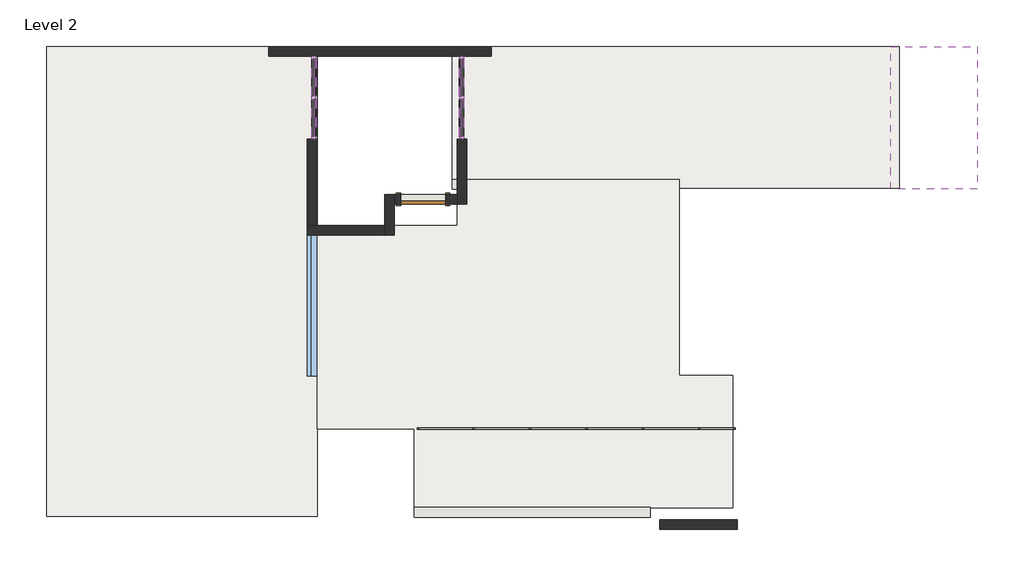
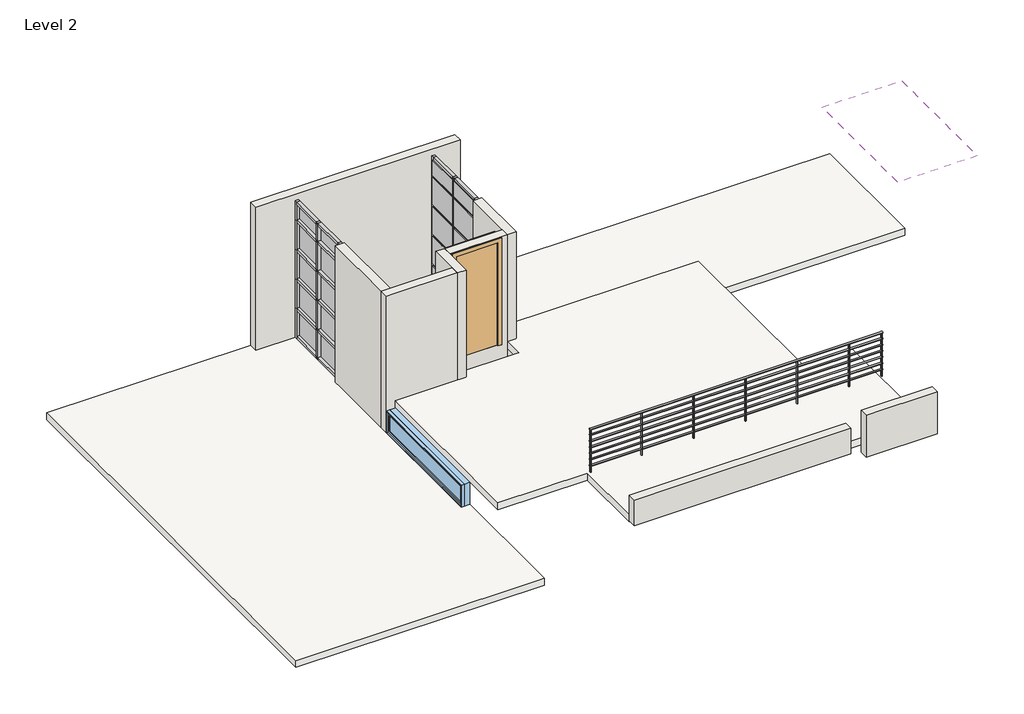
# One storey: 54 members, 20 plates, 9 walls, 3 slabs, 1 door, 1 railing, 1 roof, 1 window.
"""IFC4 building model written with IfcOpenShell, lengths in millimetres."""

from ifc_helpers import new_model, si_unit, point, frame, frame_2d, origin, place, context, project, spatial, polyline, circle_curve, trimmed, segment, composite_curve, outline, extrude, faceted_brep, transform, mapped, element, save
from components import m_single_flush_800_439f2f28, rectangular_mullion_50mm_x_65mm_a82a1849, rectangular_mullion_50mm_x_65mm_ff5aef03, rectangular_mullion_50mm_x_65mm_af7e1818, rectangular_mullion_50mm_x_65mm_bf212f9d, rectangular_mullion_50mm_x_65mm_06ddfb15, rectangular_mullion_50mm_x_65mm_7c7c1d20, rectangular_mullion_50mm_x_65mm_bbd437ae, rectangular_mullion_50mm_x_65mm_29f2aee9, system_panel_glazed_72305a2b, system_panel_glazed_4d50a23d, system_panel_glazed_a9119209, system_panel_glazed_487f0127, m_fixed_2bd9e5b5

model = new_model("IFC4")

# Units and contexts
model_context = context("Model", 3, world=origin())
ifc_project = project(units=[si_unit("LENGTHUNIT", "METRE", prefix="MILLI")], contexts=[model_context])

# Site, building, storey
site = spatial("IfcSite", under=ifc_project)
building = spatial("IfcBuilding", under=site)
storey = spatial("IfcBuildingStorey", under=building, Name="Level 2", Elevation=2700.0)

# Door
placement = place(None, origin())
m_single_flush_800_shape = m_single_flush_800_439f2f28(model_context)
element("IfcDoor", 1, ObjectType="M_Single-Flush : 800", at=placement, inside=storey, context=model_context, shape_type="MappedRepresentation", body=[
    mapped(m_single_flush_800_shape, transform((-220.1157199, 359.0181239, 3300.0), x_axis=(-1.0, 0.0, 0.0), y_axis=(0.0, -1.0, 0.0), z_axis=(0.0, 0.0, 1.0))),
])

# Members
rectangular_mullion_50mm_x_65mm_shape = rectangular_mullion_50mm_x_65mm_a82a1849(model_context)
element("IfcMember", 2, ObjectType="Rectangular Mullion : 50mm x 65mm", at=placement, inside=storey, context=model_context, shape_type="MappedRepresentation", body=[
    mapped(rectangular_mullion_50mm_x_65mm_shape, transform((469.8842801, 2161.5181239, 2700.0), x_axis=(0.0, -1.0, 0.0), y_axis=(-1.0, 0.0, 0.0), z_axis=(0.0, 0.0, -1.0))),
])
element("IfcMember", 3, ObjectType="Rectangular Mullion : 50mm x 65mm", at=placement, inside=storey, context=model_context, shape_type="MappedRepresentation", body=[
    mapped(rectangular_mullion_50mm_x_65mm_shape, transform((-2165.1157199, 2161.5181239, 2700.0), x_axis=(0.0, 1.0, 0.0), y_axis=(1.0, 0.0, 0.0), z_axis=(0.0, 0.0, -1.0))),
])
element("IfcMember", 4, ObjectType="Rectangular Mullion : 50mm x 65mm", at=placement, inside=storey, context=model_context, shape_type="MappedRepresentation", body=[
    mapped(rectangular_mullion_50mm_x_65mm_shape, transform((469.8842801, 2161.5181239, 3300.0), x_axis=(0.0, -1.0, 0.0), y_axis=(-1.0, 0.0, 0.0), z_axis=(0.0, 0.0, -1.0))),
])
element("IfcMember", 5, ObjectType="Rectangular Mullion : 50mm x 65mm", at=placement, inside=storey, context=model_context, shape_type="MappedRepresentation", body=[
    mapped(rectangular_mullion_50mm_x_65mm_shape, transform((-2165.1157199, 2161.5181239, 3300.0), x_axis=(0.0, 1.0, 0.0), y_axis=(1.0, 0.0, 0.0), z_axis=(0.0, 0.0, -1.0))),
])
element("IfcMember", 6, ObjectType="Rectangular Mullion : 50mm x 65mm", at=placement, inside=storey, context=model_context, shape_type="MappedRepresentation", body=[
    mapped(rectangular_mullion_50mm_x_65mm_shape, transform((-2165.1157199, 2161.5181239, 3900.0), x_axis=(0.0, 1.0, 0.0), y_axis=(1.0, 0.0, 0.0), z_axis=(0.0, 0.0, -1.0))),
])
element("IfcMember", 7, ObjectType="Rectangular Mullion : 50mm x 65mm", at=placement, inside=storey, context=model_context, shape_type="MappedRepresentation", body=[
    mapped(rectangular_mullion_50mm_x_65mm_shape, transform((-2165.1157199, 2161.5181239, 4500.0), x_axis=(0.0, 1.0, 0.0), y_axis=(1.0, 0.0, 0.0), z_axis=(0.0, 0.0, -1.0))),
])
element("IfcMember", 8, ObjectType="Rectangular Mullion : 50mm x 65mm", at=placement, inside=storey, context=model_context, shape_type="MappedRepresentation", body=[
    mapped(rectangular_mullion_50mm_x_65mm_shape, transform((469.8842801, 2161.5181239, 3900.0), x_axis=(0.0, -1.0, 0.0), y_axis=(-1.0, 0.0, 0.0), z_axis=(0.0, 0.0, -1.0))),
])
element("IfcMember", 9, ObjectType="Rectangular Mullion : 50mm x 65mm", at=placement, inside=storey, context=model_context, shape_type="MappedRepresentation", body=[
    mapped(rectangular_mullion_50mm_x_65mm_shape, transform((469.8842801, 2161.5181239, 4500.0), x_axis=(0.0, -1.0, 0.0), y_axis=(-1.0, 0.0, 0.0), z_axis=(0.0, 0.0, -1.0))),
])
rectangular_mullion_50mm_x_65mm_2_shape = rectangular_mullion_50mm_x_65mm_ff5aef03(model_context)
element("IfcMember", 10, ObjectType="Rectangular Mullion : 50mm x 65mm", at=placement, inside=storey, context=model_context, shape_type="MappedRepresentation", body=[
    mapped(rectangular_mullion_50mm_x_65mm_2_shape, transform((469.8842801, 1424.0181239, 2700.0), x_axis=(0.0, -1.0, 0.0), y_axis=(-1.0, 0.0, 0.0), z_axis=(0.0, 0.0, -1.0))),
])
element("IfcMember", 11, ObjectType="Rectangular Mullion : 50mm x 65mm", at=placement, inside=storey, context=model_context, shape_type="MappedRepresentation", body=[
    mapped(rectangular_mullion_50mm_x_65mm_2_shape, transform((-2165.1157199, 2899.0181239, 2700.0), x_axis=(0.0, 1.0, 0.0), y_axis=(1.0, 0.0, 0.0), z_axis=(0.0, 0.0, -1.0))),
])
element("IfcMember", 12, ObjectType="Rectangular Mullion : 50mm x 65mm", at=placement, inside=storey, context=model_context, shape_type="MappedRepresentation", body=[
    mapped(rectangular_mullion_50mm_x_65mm_2_shape, transform((469.8842801, 1424.0181239, 3300.0), x_axis=(0.0, -1.0, 0.0), y_axis=(-1.0, 0.0, 0.0), z_axis=(0.0, 0.0, -1.0))),
])
element("IfcMember", 13, ObjectType="Rectangular Mullion : 50mm x 65mm", at=placement, inside=storey, context=model_context, shape_type="MappedRepresentation", body=[
    mapped(rectangular_mullion_50mm_x_65mm_2_shape, transform((-2165.1157199, 2899.0181239, 3300.0), x_axis=(0.0, 1.0, 0.0), y_axis=(1.0, 0.0, 0.0), z_axis=(0.0, 0.0, -1.0))),
])
element("IfcMember", 14, ObjectType="Rectangular Mullion : 50mm x 65mm", at=placement, inside=storey, context=model_context, shape_type="MappedRepresentation", body=[
    mapped(rectangular_mullion_50mm_x_65mm_2_shape, transform((-2165.1157199, 2899.0181239, 3900.0), x_axis=(0.0, 1.0, 0.0), y_axis=(1.0, 0.0, 0.0), z_axis=(0.0, 0.0, -1.0))),
])
element("IfcMember", 15, ObjectType="Rectangular Mullion : 50mm x 65mm", at=placement, inside=storey, context=model_context, shape_type="MappedRepresentation", body=[
    mapped(rectangular_mullion_50mm_x_65mm_2_shape, transform((-2165.1157199, 2899.0181239, 4500.0), x_axis=(0.0, 1.0, 0.0), y_axis=(1.0, 0.0, 0.0), z_axis=(0.0, 0.0, -1.0))),
])
element("IfcMember", 16, ObjectType="Rectangular Mullion : 50mm x 65mm", at=placement, inside=storey, context=model_context, shape_type="MappedRepresentation", body=[
    mapped(rectangular_mullion_50mm_x_65mm_2_shape, transform((469.8842801, 1424.0181239, 3900.0), x_axis=(0.0, -1.0, 0.0), y_axis=(-1.0, 0.0, 0.0), z_axis=(0.0, 0.0, -1.0))),
])
element("IfcMember", 17, ObjectType="Rectangular Mullion : 50mm x 65mm", at=placement, inside=storey, context=model_context, shape_type="MappedRepresentation", body=[
    mapped(rectangular_mullion_50mm_x_65mm_2_shape, transform((469.8842801, 1424.0181239, 4500.0), x_axis=(0.0, -1.0, 0.0), y_axis=(-1.0, 0.0, 0.0), z_axis=(0.0, 0.0, -1.0))),
])
element("IfcMember", 18, ObjectType="Rectangular Mullion : 50mm x 65mm", at=placement, inside=storey, context=model_context, shape_type="MappedRepresentation", body=[
    mapped(rectangular_mullion_50mm_x_65mm_2_shape, transform((469.8842801, 2899.0181239, 3300.0), x_axis=(0.0, 1.0, 0.0), y_axis=(-1.0, 0.0, 0.0), z_axis=(0.0, 0.0, 1.0))),
])
element("IfcMember", 19, ObjectType="Rectangular Mullion : 50mm x 65mm", at=placement, inside=storey, context=model_context, shape_type="MappedRepresentation", body=[
    mapped(rectangular_mullion_50mm_x_65mm_2_shape, transform((-2165.1157199, 1424.0181239, 3300.0), x_axis=(0.0, -1.0, 0.0), y_axis=(1.0, 0.0, 0.0), z_axis=(0.0, 0.0, 1.0))),
])
element("IfcMember", 20, ObjectType="Rectangular Mullion : 50mm x 65mm", at=placement, inside=storey, context=model_context, shape_type="MappedRepresentation", body=[
    mapped(rectangular_mullion_50mm_x_65mm_2_shape, transform((-2165.1157199, 1424.0181239, 3900.0), x_axis=(0.0, -1.0, 0.0), y_axis=(1.0, 0.0, 0.0), z_axis=(0.0, 0.0, 1.0))),
])
element("IfcMember", 21, ObjectType="Rectangular Mullion : 50mm x 65mm", at=placement, inside=storey, context=model_context, shape_type="MappedRepresentation", body=[
    mapped(rectangular_mullion_50mm_x_65mm_2_shape, transform((-2165.1157199, 1424.0181239, 4500.0), x_axis=(0.0, -1.0, 0.0), y_axis=(1.0, 0.0, 0.0), z_axis=(0.0, 0.0, 1.0))),
])
element("IfcMember", 22, ObjectType="Rectangular Mullion : 50mm x 65mm", at=placement, inside=storey, context=model_context, shape_type="MappedRepresentation", body=[
    mapped(rectangular_mullion_50mm_x_65mm_2_shape, transform((469.8842801, 2899.0181239, 3900.0), x_axis=(0.0, 1.0, 0.0), y_axis=(-1.0, 0.0, 0.0), z_axis=(0.0, 0.0, 1.0))),
])
element("IfcMember", 23, ObjectType="Rectangular Mullion : 50mm x 65mm", at=placement, inside=storey, context=model_context, shape_type="MappedRepresentation", body=[
    mapped(rectangular_mullion_50mm_x_65mm_2_shape, transform((469.8842801, 2899.0181239, 4500.0), x_axis=(0.0, 1.0, 0.0), y_axis=(-1.0, 0.0, 0.0), z_axis=(0.0, 0.0, 1.0))),
])
element("IfcMember", 24, ObjectType="Rectangular Mullion : 50mm x 65mm", at=placement, inside=storey, context=model_context, shape_type="MappedRepresentation", body=[
    mapped(rectangular_mullion_50mm_x_65mm_2_shape, transform((469.8842801, 2899.0181239, 5100.0), x_axis=(0.0, 1.0, 0.0), y_axis=(-1.0, 0.0, 0.0), z_axis=(0.0, 0.0, 1.0))),
])
element("IfcMember", 25, ObjectType="Rectangular Mullion : 50mm x 65mm", at=placement, inside=storey, context=model_context, shape_type="MappedRepresentation", body=[
    mapped(rectangular_mullion_50mm_x_65mm_2_shape, transform((-2165.1157199, 1424.0181239, 5100.0), x_axis=(0.0, -1.0, 0.0), y_axis=(1.0, 0.0, 0.0), z_axis=(0.0, 0.0, 1.0))),
])
rectangular_mullion_50mm_x_65mm_3_shape = rectangular_mullion_50mm_x_65mm_af7e1818(model_context)
element("IfcMember", 26, ObjectType="Rectangular Mullion : 50mm x 65mm", at=placement, inside=storey, context=model_context, shape_type="MappedRepresentation", body=[
    mapped(rectangular_mullion_50mm_x_65mm_3_shape, transform((469.8842801, 2849.0181239, 2700.0), x_axis=(0.0, 0.0, -1.0), y_axis=(-1.0, 0.0, 0.0), z_axis=(0.0, 1.0, 0.0))),
])
element("IfcMember", 27, ObjectType="Rectangular Mullion : 50mm x 65mm", at=placement, inside=storey, context=model_context, shape_type="MappedRepresentation", body=[
    mapped(rectangular_mullion_50mm_x_65mm_3_shape, transform((469.8842801, 2136.5181239, 2700.0), x_axis=(0.0, 0.0, -1.0), y_axis=(-1.0, 0.0, 0.0), z_axis=(0.0, 1.0, 0.0))),
])
element("IfcMember", 28, ObjectType="Rectangular Mullion : 50mm x 65mm", at=placement, inside=storey, context=model_context, shape_type="MappedRepresentation", body=[
    mapped(rectangular_mullion_50mm_x_65mm_3_shape, transform((-2165.1157199, 1474.0181239, 2700.0), x_axis=(0.0, 0.0, -1.0), y_axis=(1.0, 0.0, 0.0), z_axis=(0.0, -1.0, 0.0))),
])
element("IfcMember", 29, ObjectType="Rectangular Mullion : 50mm x 65mm", at=placement, inside=storey, context=model_context, shape_type="MappedRepresentation", body=[
    mapped(rectangular_mullion_50mm_x_65mm_3_shape, transform((-2165.1157199, 2186.5181239, 2700.0), x_axis=(0.0, 0.0, -1.0), y_axis=(1.0, 0.0, 0.0), z_axis=(0.0, -1.0, 0.0))),
])
rectangular_mullion_50mm_x_65mm_4_shape = rectangular_mullion_50mm_x_65mm_bf212f9d(model_context)
element("IfcMember", 30, ObjectType="Rectangular Mullion : 50mm x 65mm", at=placement, inside=storey, context=model_context, shape_type="MappedRepresentation", body=[
    mapped(rectangular_mullion_50mm_x_65mm_4_shape, transform((469.8842801, 1474.0181239, 3300.0), x_axis=(0.0, 0.0, 1.0), y_axis=(-1.0, 0.0, 0.0), z_axis=(0.0, -1.0, 0.0))),
])
element("IfcMember", 31, ObjectType="Rectangular Mullion : 50mm x 65mm", at=placement, inside=storey, context=model_context, shape_type="MappedRepresentation", body=[
    mapped(rectangular_mullion_50mm_x_65mm_4_shape, transform((-2165.1157199, 2849.0181239, 3300.0), x_axis=(0.0, 0.0, 1.0), y_axis=(1.0, 0.0, 0.0), z_axis=(0.0, 1.0, 0.0))),
])
element("IfcMember", 32, ObjectType="Rectangular Mullion : 50mm x 65mm", at=placement, inside=storey, context=model_context, shape_type="MappedRepresentation", body=[
    mapped(rectangular_mullion_50mm_x_65mm_4_shape, transform((-2165.1157199, 2849.0181239, 3900.0), x_axis=(0.0, 0.0, 1.0), y_axis=(1.0, 0.0, 0.0), z_axis=(0.0, 1.0, 0.0))),
])
element("IfcMember", 33, ObjectType="Rectangular Mullion : 50mm x 65mm", at=placement, inside=storey, context=model_context, shape_type="MappedRepresentation", body=[
    mapped(rectangular_mullion_50mm_x_65mm_4_shape, transform((-2165.1157199, 2849.0181239, 4500.0), x_axis=(0.0, 0.0, 1.0), y_axis=(1.0, 0.0, 0.0), z_axis=(0.0, 1.0, 0.0))),
])
element("IfcMember", 34, ObjectType="Rectangular Mullion : 50mm x 65mm", at=placement, inside=storey, context=model_context, shape_type="MappedRepresentation", body=[
    mapped(rectangular_mullion_50mm_x_65mm_4_shape, transform((469.8842801, 1474.0181239, 3900.0), x_axis=(0.0, 0.0, 1.0), y_axis=(-1.0, 0.0, 0.0), z_axis=(0.0, -1.0, 0.0))),
])
element("IfcMember", 35, ObjectType="Rectangular Mullion : 50mm x 65mm", at=placement, inside=storey, context=model_context, shape_type="MappedRepresentation", body=[
    mapped(rectangular_mullion_50mm_x_65mm_4_shape, transform((469.8842801, 1474.0181239, 4500.0), x_axis=(0.0, 0.0, 1.0), y_axis=(-1.0, 0.0, 0.0), z_axis=(0.0, -1.0, 0.0))),
])
element("IfcMember", 36, ObjectType="Rectangular Mullion : 50mm x 65mm", at=placement, inside=storey, context=model_context, shape_type="MappedRepresentation", body=[
    mapped(rectangular_mullion_50mm_x_65mm_4_shape, transform((469.8842801, 2186.5181239, 3300.0), x_axis=(0.0, 0.0, 1.0), y_axis=(-1.0, 0.0, 0.0), z_axis=(0.0, -1.0, 0.0))),
])
element("IfcMember", 37, ObjectType="Rectangular Mullion : 50mm x 65mm", at=placement, inside=storey, context=model_context, shape_type="MappedRepresentation", body=[
    mapped(rectangular_mullion_50mm_x_65mm_4_shape, transform((469.8842801, 2186.5181239, 3900.0), x_axis=(0.0, 0.0, 1.0), y_axis=(-1.0, 0.0, 0.0), z_axis=(0.0, -1.0, 0.0))),
])
element("IfcMember", 38, ObjectType="Rectangular Mullion : 50mm x 65mm", at=placement, inside=storey, context=model_context, shape_type="MappedRepresentation", body=[
    mapped(rectangular_mullion_50mm_x_65mm_4_shape, transform((469.8842801, 2186.5181239, 4500.0), x_axis=(0.0, 0.0, 1.0), y_axis=(-1.0, 0.0, 0.0), z_axis=(0.0, -1.0, 0.0))),
])
element("IfcMember", 39, ObjectType="Rectangular Mullion : 50mm x 65mm", at=placement, inside=storey, context=model_context, shape_type="MappedRepresentation", body=[
    mapped(rectangular_mullion_50mm_x_65mm_4_shape, transform((-2165.1157199, 2136.5181239, 3300.0), x_axis=(0.0, 0.0, 1.0), y_axis=(1.0, 0.0, 0.0), z_axis=(0.0, 1.0, 0.0))),
])
element("IfcMember", 40, ObjectType="Rectangular Mullion : 50mm x 65mm", at=placement, inside=storey, context=model_context, shape_type="MappedRepresentation", body=[
    mapped(rectangular_mullion_50mm_x_65mm_4_shape, transform((-2165.1157199, 2136.5181239, 3900.0), x_axis=(0.0, 0.0, 1.0), y_axis=(1.0, 0.0, 0.0), z_axis=(0.0, 1.0, 0.0))),
])
element("IfcMember", 41, ObjectType="Rectangular Mullion : 50mm x 65mm", at=placement, inside=storey, context=model_context, shape_type="MappedRepresentation", body=[
    mapped(rectangular_mullion_50mm_x_65mm_4_shape, transform((-2165.1157199, 2136.5181239, 4500.0), x_axis=(0.0, 0.0, 1.0), y_axis=(1.0, 0.0, 0.0), z_axis=(0.0, 1.0, 0.0))),
])
element("IfcMember", 42, ObjectType="Rectangular Mullion : 50mm x 65mm", at=placement, inside=storey, context=model_context, shape_type="MappedRepresentation", body=[
    mapped(rectangular_mullion_50mm_x_65mm_4_shape, transform((469.8842801, 2186.5181239, 5100.0), x_axis=(0.0, 0.0, 1.0), y_axis=(-1.0, 0.0, 0.0), z_axis=(0.0, -1.0, 0.0))),
])
element("IfcMember", 43, ObjectType="Rectangular Mullion : 50mm x 65mm", at=placement, inside=storey, context=model_context, shape_type="MappedRepresentation", body=[
    mapped(rectangular_mullion_50mm_x_65mm_4_shape, transform((469.8842801, 1474.0181239, 5100.0), x_axis=(0.0, 0.0, 1.0), y_axis=(-1.0, 0.0, 0.0), z_axis=(0.0, -1.0, 0.0))),
])
element("IfcMember", 44, ObjectType="Rectangular Mullion : 50mm x 65mm", at=placement, inside=storey, context=model_context, shape_type="MappedRepresentation", body=[
    mapped(rectangular_mullion_50mm_x_65mm_4_shape, transform((-2165.1157199, 2136.5181239, 5100.0), x_axis=(0.0, 0.0, 1.0), y_axis=(1.0, 0.0, 0.0), z_axis=(0.0, 1.0, 0.0))),
])
element("IfcMember", 45, ObjectType="Rectangular Mullion : 50mm x 65mm", at=placement, inside=storey, context=model_context, shape_type="MappedRepresentation", body=[
    mapped(rectangular_mullion_50mm_x_65mm_4_shape, transform((-2165.1157199, 2849.0181239, 5100.0), x_axis=(0.0, 0.0, 1.0), y_axis=(1.0, 0.0, 0.0), z_axis=(0.0, 1.0, 0.0))),
])
element("IfcMember", 46, ObjectType="Rectangular Mullion : 50mm x 65mm", at=placement, inside=storey, context=model_context, shape_type="MappedRepresentation", body=[
    mapped(rectangular_mullion_50mm_x_65mm_3_shape, transform((469.8842801, 1474.0181239, 5480.8658889), x_axis=(0.0, 0.0, 1.0), y_axis=(-1.0, 0.0, 0.0), z_axis=(0.0, -1.0, 0.0))),
])
element("IfcMember", 47, ObjectType="Rectangular Mullion : 50mm x 65mm", at=placement, inside=storey, context=model_context, shape_type="MappedRepresentation", body=[
    mapped(rectangular_mullion_50mm_x_65mm_3_shape, transform((469.8842801, 2186.5181239, 5480.8658889), x_axis=(0.0, 0.0, 1.0), y_axis=(-1.0, 0.0, 0.0), z_axis=(0.0, -1.0, 0.0))),
])
element("IfcMember", 48, ObjectType="Rectangular Mullion : 50mm x 65mm", at=placement, inside=storey, context=model_context, shape_type="MappedRepresentation", body=[
    mapped(rectangular_mullion_50mm_x_65mm_3_shape, transform((-2165.1157199, 2849.0181239, 5489.6492222), x_axis=(0.0, 0.0, 1.0), y_axis=(1.0, 0.0, 0.0), z_axis=(0.0, 1.0, 0.0))),
])
element("IfcMember", 49, ObjectType="Rectangular Mullion : 50mm x 65mm", at=placement, inside=storey, context=model_context, shape_type="MappedRepresentation", body=[
    mapped(rectangular_mullion_50mm_x_65mm_3_shape, transform((-2165.1157199, 2136.5181239, 5489.6492222), x_axis=(0.0, 0.0, 1.0), y_axis=(1.0, 0.0, 0.0), z_axis=(0.0, 1.0, 0.0))),
])
rectangular_mullion_50mm_x_65mm_5_shape = rectangular_mullion_50mm_x_65mm_06ddfb15(model_context)
element("IfcMember", 50, ObjectType="Rectangular Mullion : 50mm x 65mm", at=placement, inside=storey, context=model_context, shape_type="MappedRepresentation", body=[
    mapped(rectangular_mullion_50mm_x_65mm_5_shape, transform((469.8842801, 2161.5181239, 5100.0), x_axis=(0.0, -1.0, 0.0), y_axis=(-1.0, 0.0, 0.0), z_axis=(0.0, 0.0, -1.0))),
])
rectangular_mullion_50mm_x_65mm_6_shape = rectangular_mullion_50mm_x_65mm_7c7c1d20(model_context)
element("IfcMember", 51, ObjectType="Rectangular Mullion : 50mm x 65mm", at=placement, inside=storey, context=model_context, shape_type="MappedRepresentation", body=[
    mapped(rectangular_mullion_50mm_x_65mm_6_shape, transform((-2165.1157199, 2161.5181239, 5100.0), x_axis=(0.0, 1.0, 0.0), y_axis=(1.0, 0.0, 0.0), z_axis=(0.0, 0.0, -1.0))),
])
rectangular_mullion_50mm_x_65mm_7_shape = rectangular_mullion_50mm_x_65mm_bbd437ae(model_context)
element("IfcMember", 52, ObjectType="Rectangular Mullion : 50mm x 65mm", at=placement, inside=storey, context=model_context, shape_type="MappedRepresentation", body=[
    mapped(rectangular_mullion_50mm_x_65mm_7_shape, transform((469.8842801, 2899.0181239, 5480.8658889), x_axis=(0.0, 1.0, 0.0), y_axis=(-1.0, 0.0, 0.0), z_axis=(0.0, 0.0, 1.0))),
])
element("IfcMember", 53, ObjectType="Rectangular Mullion : 50mm x 65mm", at=placement, inside=storey, context=model_context, shape_type="MappedRepresentation", body=[
    mapped(rectangular_mullion_50mm_x_65mm_7_shape, transform((469.8842801, 1424.0181239, 5100.0), x_axis=(0.0, -1.0, 0.0), y_axis=(-1.0, 0.0, 0.0), z_axis=(0.0, 0.0, -1.0))),
])
rectangular_mullion_50mm_x_65mm_8_shape = rectangular_mullion_50mm_x_65mm_29f2aee9(model_context)
element("IfcMember", 54, ObjectType="Rectangular Mullion : 50mm x 65mm", at=placement, inside=storey, context=model_context, shape_type="MappedRepresentation", body=[
    mapped(rectangular_mullion_50mm_x_65mm_8_shape, transform((-2165.1157199, 2899.0181239, 5100.0), x_axis=(0.0, 1.0, 0.0), y_axis=(1.0, 0.0, 0.0), z_axis=(0.0, 0.0, -1.0))),
])
element("IfcMember", 55, ObjectType="Rectangular Mullion : 50mm x 65mm", at=placement, inside=storey, context=model_context, shape_type="MappedRepresentation", body=[
    mapped(rectangular_mullion_50mm_x_65mm_8_shape, transform((-2165.1157199, 1424.0181239, 5489.6492222), x_axis=(0.0, -1.0, 0.0), y_axis=(1.0, 0.0, 0.0), z_axis=(0.0, 0.0, 1.0))),
])

# Plates
system_panel_glazed_shape = system_panel_glazed_72305a2b(model_context)
element("IfcPlate", 56, ObjectType="System Panel : Glazed", at=placement, inside=storey, context=model_context, shape_type="MappedRepresentation", body=[
    mapped(system_panel_glazed_shape, transform((469.8842801, 2517.7681239, 2750.0), x_axis=(0.0, -1.0, 0.0), y_axis=(1.0, 0.0, 0.0), z_axis=(0.0, 0.0, 1.0))),
])
element("IfcPlate", 57, ObjectType="System Panel : Glazed", at=placement, inside=storey, context=model_context, shape_type="MappedRepresentation", body=[
    mapped(system_panel_glazed_shape, transform((-2165.1157199, 1805.2681239, 2750.0), x_axis=(0.0, 1.0, 0.0), y_axis=(-1.0, 0.0, 0.0), z_axis=(0.0, 0.0, 1.0))),
])
element("IfcPlate", 58, ObjectType="System Panel : Glazed", at=placement, inside=storey, context=model_context, shape_type="MappedRepresentation", body=[
    mapped(system_panel_glazed_shape, transform((469.8842801, 1805.2681239, 2750.0), x_axis=(0.0, -1.0, 0.0), y_axis=(1.0, 0.0, 0.0), z_axis=(0.0, 0.0, 1.0))),
])
element("IfcPlate", 59, ObjectType="System Panel : Glazed", at=placement, inside=storey, context=model_context, shape_type="MappedRepresentation", body=[
    mapped(system_panel_glazed_shape, transform((-2165.1157199, 2517.7681239, 2750.0), x_axis=(0.0, 1.0, 0.0), y_axis=(-1.0, 0.0, 0.0), z_axis=(0.0, 0.0, 1.0))),
])
system_panel_glazed_2_shape = system_panel_glazed_4d50a23d(model_context)
element("IfcPlate", 60, ObjectType="System Panel : Glazed", at=placement, inside=storey, context=model_context, shape_type="MappedRepresentation", body=[
    mapped(system_panel_glazed_2_shape, transform((469.8842801, 2517.7681239, 3325.0), x_axis=(0.0, -1.0, 0.0), y_axis=(1.0, 0.0, 0.0), z_axis=(0.0, 0.0, 1.0))),
])
element("IfcPlate", 61, ObjectType="System Panel : Glazed", at=placement, inside=storey, context=model_context, shape_type="MappedRepresentation", body=[
    mapped(system_panel_glazed_2_shape, transform((469.8842801, 1805.2681239, 3325.0), x_axis=(0.0, -1.0, 0.0), y_axis=(1.0, 0.0, 0.0), z_axis=(0.0, 0.0, 1.0))),
])
element("IfcPlate", 62, ObjectType="System Panel : Glazed", at=placement, inside=storey, context=model_context, shape_type="MappedRepresentation", body=[
    mapped(system_panel_glazed_2_shape, transform((-2165.1157199, 1805.2681239, 3325.0), x_axis=(0.0, 1.0, 0.0), y_axis=(-1.0, 0.0, 0.0), z_axis=(0.0, 0.0, 1.0))),
])
element("IfcPlate", 63, ObjectType="System Panel : Glazed", at=placement, inside=storey, context=model_context, shape_type="MappedRepresentation", body=[
    mapped(system_panel_glazed_2_shape, transform((-2165.1157199, 2517.7681239, 3325.0), x_axis=(0.0, 1.0, 0.0), y_axis=(-1.0, 0.0, 0.0), z_axis=(0.0, 0.0, 1.0))),
])
element("IfcPlate", 64, ObjectType="System Panel : Glazed", at=placement, inside=storey, context=model_context, shape_type="MappedRepresentation", body=[
    mapped(system_panel_glazed_2_shape, transform((-2165.1157199, 1805.2681239, 3925.0), x_axis=(0.0, 1.0, 0.0), y_axis=(-1.0, 0.0, 0.0), z_axis=(0.0, 0.0, 1.0))),
])
element("IfcPlate", 65, ObjectType="System Panel : Glazed", at=placement, inside=storey, context=model_context, shape_type="MappedRepresentation", body=[
    mapped(system_panel_glazed_2_shape, transform((-2165.1157199, 2517.7681239, 3925.0), x_axis=(0.0, 1.0, 0.0), y_axis=(-1.0, 0.0, 0.0), z_axis=(0.0, 0.0, 1.0))),
])
element("IfcPlate", 66, ObjectType="System Panel : Glazed", at=placement, inside=storey, context=model_context, shape_type="MappedRepresentation", body=[
    mapped(system_panel_glazed_2_shape, transform((-2165.1157199, 1805.2681239, 4525.0), x_axis=(0.0, 1.0, 0.0), y_axis=(-1.0, 0.0, 0.0), z_axis=(0.0, 0.0, 1.0))),
])
element("IfcPlate", 67, ObjectType="System Panel : Glazed", at=placement, inside=storey, context=model_context, shape_type="MappedRepresentation", body=[
    mapped(system_panel_glazed_2_shape, transform((-2165.1157199, 2517.7681239, 4525.0), x_axis=(0.0, 1.0, 0.0), y_axis=(-1.0, 0.0, 0.0), z_axis=(0.0, 0.0, 1.0))),
])
element("IfcPlate", 68, ObjectType="System Panel : Glazed", at=placement, inside=storey, context=model_context, shape_type="MappedRepresentation", body=[
    mapped(system_panel_glazed_2_shape, transform((469.8842801, 2517.7681239, 3925.0), x_axis=(0.0, -1.0, 0.0), y_axis=(1.0, 0.0, 0.0), z_axis=(0.0, 0.0, 1.0))),
])
element("IfcPlate", 69, ObjectType="System Panel : Glazed", at=placement, inside=storey, context=model_context, shape_type="MappedRepresentation", body=[
    mapped(system_panel_glazed_2_shape, transform((469.8842801, 1805.2681239, 3925.0), x_axis=(0.0, -1.0, 0.0), y_axis=(1.0, 0.0, 0.0), z_axis=(0.0, 0.0, 1.0))),
])
element("IfcPlate", 70, ObjectType="System Panel : Glazed", at=placement, inside=storey, context=model_context, shape_type="MappedRepresentation", body=[
    mapped(system_panel_glazed_2_shape, transform((469.8842801, 2517.7681239, 4525.0), x_axis=(0.0, -1.0, 0.0), y_axis=(1.0, 0.0, 0.0), z_axis=(0.0, 0.0, 1.0))),
])
element("IfcPlate", 71, ObjectType="System Panel : Glazed", at=placement, inside=storey, context=model_context, shape_type="MappedRepresentation", body=[
    mapped(system_panel_glazed_2_shape, transform((469.8842801, 1805.2681239, 4525.0), x_axis=(0.0, -1.0, 0.0), y_axis=(1.0, 0.0, 0.0), z_axis=(0.0, 0.0, 1.0))),
])
system_panel_glazed_3_shape = system_panel_glazed_a9119209(model_context)
element("IfcPlate", 72, ObjectType="System Panel : Glazed", at=placement, inside=storey, context=model_context, shape_type="MappedRepresentation", body=[
    mapped(system_panel_glazed_3_shape, transform((469.8842801, 2517.7681239, 5125.0), x_axis=(0.0, -1.0, 0.0), y_axis=(1.0, 0.0, 0.0), z_axis=(0.0, 0.0, 1.0))),
])
element("IfcPlate", 73, ObjectType="System Panel : Glazed", at=placement, inside=storey, context=model_context, shape_type="MappedRepresentation", body=[
    mapped(system_panel_glazed_3_shape, transform((469.8842801, 1805.2681239, 5125.0), x_axis=(0.0, -1.0, 0.0), y_axis=(1.0, 0.0, 0.0), z_axis=(0.0, 0.0, 1.0))),
])
system_panel_glazed_4_shape = system_panel_glazed_487f0127(model_context)
element("IfcPlate", 74, ObjectType="System Panel : Glazed", at=placement, inside=storey, context=model_context, shape_type="MappedRepresentation", body=[
    mapped(system_panel_glazed_4_shape, transform((-2165.1157199, 1805.2681239, 5125.0), x_axis=(0.0, 1.0, 0.0), y_axis=(-1.0, 0.0, 0.0), z_axis=(0.0, 0.0, 1.0))),
])
element("IfcPlate", 75, ObjectType="System Panel : Glazed", at=placement, inside=storey, context=model_context, shape_type="MappedRepresentation", body=[
    mapped(system_panel_glazed_4_shape, transform((-2165.1157199, 2517.7681239, 5125.0), x_axis=(0.0, 1.0, 0.0), y_axis=(-1.0, 0.0, 0.0), z_axis=(0.0, 0.0, 1.0))),
])

# Railing
element("IfcRailing", 76, ObjectType="900mm Pipe", at=placement, inside=storey, context=model_context, shape_type="SweptSolid", body=[
    extrude(outline(composite_curve([segment(trimmed(circle_curve(frame_2d((-3710.9818761, 4180.0)), 20.0), [point((-3730.9818761, 4180.0))], [point((-3690.9818761, 4180.0))], False, "CARTESIAN"), True, "CONTINUOUS"), segment(trimmed(circle_curve(frame_2d((-3710.9818761, 4180.0)), 20.0), [point((-3690.9818761, 4180.0))], [point((-3730.9818761, 4180.0))], False, "CARTESIAN"), True, "CONTINUOUS")], self_intersect=False)), frame((-325.2201941, 0.0, 0.0), z_axis=(1.0, 0.0, 0.0), x_axis=(0.0, 1.0, 0.0)), (0.0, 0.0, 1.0), 5639.8254274),
    extrude(outline(composite_curve([segment(trimmed(circle_curve(frame_2d((-3710.9818761, 4060.0)), 15.0), [point((-3695.9818761, 4060.0))], [point((-3725.9818761, 4060.0))], False, "CARTESIAN"), True, "CONTINUOUS"), segment(trimmed(circle_curve(frame_2d((-3710.9818761, 4060.0)), 15.0), [point((-3725.9818761, 4060.0))], [point((-3695.9818761, 4060.0))], False, "CARTESIAN"), True, "CONTINUOUS")], self_intersect=False)), frame((-325.2201941, 0.0, 0.0), z_axis=(1.0, 0.0, 0.0), x_axis=(0.0, 1.0, 0.0)), (0.0, 0.0, 1.0), 5639.8254274),
    extrude(outline(composite_curve([segment(trimmed(circle_curve(frame_2d((-3710.9818761, 3935.0)), 15.0), [point((-3695.9818761, 3935.0))], [point((-3725.9818761, 3935.0))], False, "CARTESIAN"), True, "CONTINUOUS"), segment(trimmed(circle_curve(frame_2d((-3710.9818761, 3935.0)), 15.0), [point((-3725.9818761, 3935.0))], [point((-3695.9818761, 3935.0))], False, "CARTESIAN"), True, "CONTINUOUS")], self_intersect=False)), frame((-325.2201941, 0.0, 0.0), z_axis=(1.0, 0.0, 0.0), x_axis=(0.0, 1.0, 0.0)), (0.0, 0.0, 1.0), 5639.8254274),
    extrude(outline(composite_curve([segment(trimmed(circle_curve(frame_2d((-3710.9818761, 3810.0)), 15.0), [point((-3695.9818761, 3810.0))], [point((-3725.9818761, 3810.0))], False, "CARTESIAN"), True, "CONTINUOUS"), segment(trimmed(circle_curve(frame_2d((-3710.9818761, 3810.0)), 15.0), [point((-3725.9818761, 3810.0))], [point((-3695.9818761, 3810.0))], False, "CARTESIAN"), True, "CONTINUOUS")], self_intersect=False)), frame((-325.2201941, 0.0, 0.0), z_axis=(1.0, 0.0, 0.0), x_axis=(0.0, 1.0, 0.0)), (0.0, 0.0, 1.0), 5639.8254274),
    extrude(outline(composite_curve([segment(trimmed(circle_curve(frame_2d((-3710.9818761, 3685.0)), 15.0), [point((-3695.9818761, 3685.0))], [point((-3725.9818761, 3685.0))], False, "CARTESIAN"), True, "CONTINUOUS"), segment(trimmed(circle_curve(frame_2d((-3710.9818761, 3685.0)), 15.0), [point((-3725.9818761, 3685.0))], [point((-3695.9818761, 3685.0))], False, "CARTESIAN"), True, "CONTINUOUS")], self_intersect=False)), frame((-325.2201941, 0.0, 0.0), z_axis=(1.0, 0.0, 0.0), x_axis=(0.0, 1.0, 0.0)), (0.0, 0.0, 1.0), 5639.8254274),
    extrude(outline(composite_curve([segment(trimmed(circle_curve(frame_2d((-3710.9818761, 3560.0)), 15.0), [point((-3695.9818761, 3560.0))], [point((-3725.9818761, 3560.0))], False, "CARTESIAN"), True, "CONTINUOUS"), segment(trimmed(circle_curve(frame_2d((-3710.9818761, 3560.0)), 15.0), [point((-3725.9818761, 3560.0))], [point((-3695.9818761, 3560.0))], False, "CARTESIAN"), True, "CONTINUOUS")], self_intersect=False)), frame((-325.2201941, 0.0, 0.0), z_axis=(1.0, 0.0, 0.0), x_axis=(0.0, 1.0, 0.0)), (0.0, 0.0, 1.0), 5639.8254274),
    extrude(outline(composite_curve([segment(trimmed(circle_curve(frame_2d((-3710.9818761, 3435.0)), 15.0), [point((-3695.9818761, 3435.0))], [point((-3725.9818761, 3435.0))], False, "CARTESIAN"), True, "CONTINUOUS"), segment(trimmed(circle_curve(frame_2d((-3710.9818761, 3435.0)), 15.0), [point((-3725.9818761, 3435.0))], [point((-3695.9818761, 3435.0))], False, "CARTESIAN"), True, "CONTINUOUS")], self_intersect=False)), frame((-325.2201941, 0.0, 0.0), z_axis=(1.0, 0.0, 0.0), x_axis=(0.0, 1.0, 0.0)), (0.0, 0.0, 1.0), 5639.8254274),
    extrude(outline(composite_curve([segment(trimmed(circle_curve(frame_2d((4674.7798059, -3710.9818761)), 12.5), [point((4674.7798059, -3698.4818761))], [point((4674.7798059, -3723.4818761))], False, "CARTESIAN"), True, "CONTINUOUS"), segment(trimmed(circle_curve(frame_2d((4674.7798059, -3710.9818761)), 12.5), [point((4674.7798059, -3723.4818761))], [point((4674.7798059, -3698.4818761))], False, "CARTESIAN"), True, "CONTINUOUS")], self_intersect=False)), frame((0.0, 0.0, 3300.0), z_axis=(0.0, 0.0, 1.0), x_axis=(1.0, 0.0, 0.0)), (0.0, 0.0, 1.0), 860.0),
    extrude(outline(composite_curve([segment(trimmed(circle_curve(frame_2d((3674.7798059, -3710.9818761)), 12.5), [point((3674.7798059, -3698.4818761))], [point((3674.7798059, -3723.4818761))], False, "CARTESIAN"), True, "CONTINUOUS"), segment(trimmed(circle_curve(frame_2d((3674.7798059, -3710.9818761)), 12.5), [point((3674.7798059, -3723.4818761))], [point((3674.7798059, -3698.4818761))], False, "CARTESIAN"), True, "CONTINUOUS")], self_intersect=False)), frame((0.0, 0.0, 3300.0), z_axis=(0.0, 0.0, 1.0), x_axis=(1.0, 0.0, 0.0)), (0.0, 0.0, 1.0), 860.0),
    extrude(outline(composite_curve([segment(trimmed(circle_curve(frame_2d((2674.7798059, -3710.9818761)), 12.5), [point((2674.7798059, -3698.4818761))], [point((2674.7798059, -3723.4818761))], False, "CARTESIAN"), True, "CONTINUOUS"), segment(trimmed(circle_curve(frame_2d((2674.7798059, -3710.9818761)), 12.5), [point((2674.7798059, -3723.4818761))], [point((2674.7798059, -3698.4818761))], False, "CARTESIAN"), True, "CONTINUOUS")], self_intersect=False)), frame((0.0, 0.0, 3300.0), z_axis=(0.0, 0.0, 1.0), x_axis=(1.0, 0.0, 0.0)), (0.0, 0.0, 1.0), 860.0),
    extrude(outline(composite_curve([segment(trimmed(circle_curve(frame_2d((1674.7798059, -3710.9818761)), 12.5), [point((1674.7798059, -3698.4818761))], [point((1674.7798059, -3723.4818761))], False, "CARTESIAN"), True, "CONTINUOUS"), segment(trimmed(circle_curve(frame_2d((1674.7798059, -3710.9818761)), 12.5), [point((1674.7798059, -3723.4818761))], [point((1674.7798059, -3698.4818761))], False, "CARTESIAN"), True, "CONTINUOUS")], self_intersect=False)), frame((0.0, 0.0, 3300.0), z_axis=(0.0, 0.0, 1.0), x_axis=(1.0, 0.0, 0.0)), (0.0, 0.0, 1.0), 860.0),
    extrude(outline(composite_curve([segment(trimmed(circle_curve(frame_2d((674.7798059, -3710.9818761)), 12.5), [point((674.7798059, -3698.4818761))], [point((674.7798059, -3723.4818761))], False, "CARTESIAN"), True, "CONTINUOUS"), segment(trimmed(circle_curve(frame_2d((674.7798059, -3710.9818761)), 12.5), [point((674.7798059, -3723.4818761))], [point((674.7798059, -3698.4818761))], False, "CARTESIAN"), True, "CONTINUOUS")], self_intersect=False)), frame((0.0, 0.0, 3300.0), z_axis=(0.0, 0.0, 1.0), x_axis=(1.0, 0.0, 0.0)), (0.0, 0.0, 1.0), 860.0),
    extrude(outline(composite_curve([segment(trimmed(circle_curve(frame_2d((5302.1052333, -3710.9818761)), 12.5), [point((5302.1052333, -3698.4818761))], [point((5302.1052333, -3723.4818761))], False, "CARTESIAN"), True, "CONTINUOUS"), segment(trimmed(circle_curve(frame_2d((5302.1052333, -3710.9818761)), 12.5), [point((5302.1052333, -3723.4818761))], [point((5302.1052333, -3698.4818761))], False, "CARTESIAN"), True, "CONTINUOUS")], self_intersect=False)), frame((0.0, 0.0, 3300.0), z_axis=(0.0, 0.0, 1.0), x_axis=(1.0, 0.0, 0.0)), (0.0, 0.0, 1.0), 860.0),
    extrude(outline(composite_curve([segment(trimmed(circle_curve(frame_2d((-312.7201941, -3710.9818761)), 12.5), [point((-312.7201941, -3698.4818761))], [point((-312.7201941, -3723.4818761))], False, "CARTESIAN"), True, "CONTINUOUS"), segment(trimmed(circle_curve(frame_2d((-312.7201941, -3710.9818761)), 12.5), [point((-312.7201941, -3723.4818761))], [point((-312.7201941, -3698.4818761))], False, "CARTESIAN"), True, "CONTINUOUS")], self_intersect=False)), frame((0.0, 0.0, 3300.0), z_axis=(0.0, 0.0, 1.0), x_axis=(1.0, 0.0, 0.0)), (0.0, 0.0, 1.0), 860.0),
])

# Roof
element("IfcRoof", 77, ObjectType="Wood Rafter 184mm - Asphalt Shingles", at=placement, inside=storey, context=model_context, shape_type="SweptSolid", body=[
    extrude(outline(polyline([(539.0181239, 3912.7789636), (3069.0181239, 4396.0636644), (3069.0181239, 4183.2847008), (539.0181239, 3700.0), (539.0181239, 3912.7789636)])), frame((8065.8624114, 0.0, 0.0), z_axis=(1.0, 0.0, 0.0), x_axis=(0.0, 1.0, 0.0)), (0.0, 0.0, 1.0), 1540.0),
])

# Slabs
element("IfcSlab", 78, ObjectType="Losa", at=placement, inside=storey, context=model_context, shape_type="SweptSolid", body=[
    extrude(outline(polyline([(-6894.1375886, 3069.0181239), (-2100.1157199, 3069.0181239), (-2100.1157199, -5260.9818761), (-6894.1375886, -5260.9818761), (-6894.1375886, 3069.0181239)])), frame((0.0, 0.0, 2560.0), z_axis=(0.0, 0.0, 1.0), x_axis=(1.0, 0.0, 0.0)), (0.0, 0.0, 1.0), 140.0),
])
element("IfcSlab", 79, ObjectType="Losa", at=placement, inside=storey, context=model_context, shape_type="SweptSolid", body=[
    extrude(outline(polyline([(-375.1157199, -5109.9818761), (-375.1157199, -3710.9818761), (-2100.1157199, -3710.9818761), (-2100.1157199, -105.9818761), (-900.1157199, -105.9818761), (384.8842801, -105.9818761), (384.8842801, 709.0181239), (4320.8624114, 709.0181239), (4320.8624114, -2769.9818761), (5264.7097075, -2769.9818761), (5264.7097075, -5109.9818761), (-375.1157199, -5109.9818761)])), frame((0.0, 0.0, 3160.0), z_axis=(0.0, 0.0, 1.0), x_axis=(1.0, 0.0, 0.0)), (0.0, 0.0, 1.0), 140.0),
])
element("IfcSlab", 80, ObjectType="Losa", at=placement, inside=storey, context=model_context, shape_type="SweptSolid", body=[
    extrude(outline(polyline([(8215.8624114, 3069.0181239), (8215.8624114, 559.0181239), (299.8842801, 559.0181239), (299.8842801, 3069.0181239), (8215.8624114, 3069.0181239)])), frame((0.0, 0.0, 2560.0), z_axis=(0.0, 0.0, 1.0), x_axis=(1.0, 0.0, 0.0)), (0.0, 0.0, 1.0), 140.0),
])

# Walls
element("IfcWall", 81, ObjectType="Generic - 170", at=placement, inside=storey, context=model_context, shape_type="SweptSolid", body=[
    extrude(outline(polyline([(984.8842801, 2899.0181239), (-2955.1157199, 2899.0181239), (-2955.1157199, 3069.0181239), (984.8842801, 3069.0181239), (984.8842801, 2899.0181239)])), frame((0.0, 0.0, 2522.8571429), z_axis=(0.0, 0.0, 1.0), x_axis=(1.0, 0.0, 0.0)), (0.0, 0.0, 1.0), 3097.1428571),
])
element("IfcWall", 82, ObjectType="Generic - 170", at=placement, inside=storey, context=model_context, shape_type="Brep", body=[
    faceted_brep([(-2270.1157199, -275.9818761, 2700.0), (-900.1157199, -275.9818761, 2700.0), (-900.1157199, -275.9818761, 5485.4325556), (-2270.1157199, -275.9818761, 5489.9992222), (-2270.1157199, -105.9818761, 2700.0), (-2270.1157199, -105.9818761, 5489.9992222), (-2100.1157199, -105.9818761, 5489.4325556), (-900.1157199, -105.9818761, 5485.4325556), (-900.1157199, -105.9818761, 2700.0), (-2100.1157199, -105.9818761, 2700.0)], [[[0, 1, 2, 3]], [[4, 5, 6, 7, 8, 9]], [[1, 0, 4, 9, 8]], [[0, 3, 5, 4]], [[2, 1, 8, 7]], [[3, 2, 7, 6, 5]]]),
])
element("IfcWall", 83, ObjectType="Generic - 170", at=placement, inside=storey, context=model_context, shape_type="Brep", body=[
    faceted_brep([(-730.1157199, -275.9818761, 2700.0), (-730.1157199, 274.0181239, 2700.0), (-730.1157199, 444.0181239, 2700.0), (-730.1157199, 444.0181239, 5484.8658889), (-730.1157199, 274.0181239, 5484.8658889), (-730.1157199, -275.9818761, 5484.8658889), (-900.1157199, -275.9818761, 2700.0), (-900.1157199, -275.9818761, 5485.4325556), (-900.1157199, -105.9818761, 5485.4325556), (-900.1157199, 444.0181239, 5485.4325556), (-900.1157199, 444.0181239, 2700.0), (-900.1157199, -105.9818761, 2700.0)], [[[0, 1, 2, 3, 4, 5]], [[6, 7, 8, 9, 10, 11]], [[2, 1, 0, 6, 11, 10]], [[3, 2, 10, 9]], [[0, 5, 7, 6]], [[5, 4, 3, 9, 8, 7]]]),
])
element("IfcWall", 84, ObjectType="Generic - 170", at=placement, inside=storey, context=model_context, shape_type="SweptSolid", body=[
    extrude(outline(polyline([(2700.0, -730.1157199), (2700.0, 384.8842801), (5481.1492222, 384.8842801), (5484.8658889, -730.1157199), (2700.0, -730.1157199)]), holes=[polyline([(3300.0, 179.8842801), (3300.0, -620.1157199), (5400.0, -620.1157199), (5400.0, 179.8842801), (3300.0, 179.8842801)])]), frame((0.0, 274.0181239, 0.0), z_axis=(0.0, 1.0, 0.0), x_axis=(0.0, 0.0, 1.0)), (0.0, 0.0, 1.0), 170.0),
])
element("IfcWall", 85, ObjectType="Generic - 170", at=placement, inside=storey, context=model_context, shape_type="SweptSolid", body=[
    extrude(outline(polyline([(2700.0, -2100.1157199), (5489.4325556, -2100.1157199), (5489.9992222, -2270.1157199), (2700.0, -2270.1157199), (2700.0, -2100.1157199)])), frame((0.0, -105.9818761, 0.0), z_axis=(0.0, 1.0, 0.0), x_axis=(0.0, 0.0, 1.0)), (0.0, 0.0, 1.0), 1530.0),
])
element("IfcWall", 86, ObjectType="Generic - 170", at=placement, inside=storey, context=model_context, shape_type="Brep", body=[
    faceted_brep([(554.8842801, 274.0181239, 2700.0), (554.8842801, 1424.0181239, 2700.0), (554.8842801, 1424.0181239, 5480.5825556), (554.8842801, 274.0181239, 5480.5825556), (384.8842801, 274.0181239, 2700.0), (384.8842801, 274.0181239, 5481.1492222), (384.8842801, 444.0181239, 5481.1492222), (384.8842801, 1424.0181239, 5481.1492222), (384.8842801, 1424.0181239, 2700.0), (384.8842801, 444.0181239, 2700.0)], [[[0, 1, 2, 3]], [[4, 5, 6, 7, 8, 9]], [[1, 0, 4, 9, 8]], [[2, 1, 8, 7]], [[0, 3, 5, 4]], [[3, 2, 7, 6, 5]]]),
])
element("IfcWall", 87, ObjectType="Generic - 170", at=placement, inside=storey, context=model_context, shape_type="Brep", body=[
    faceted_brep([(3975.8624114, -5494.9818761, 3180.0), (5349.7097075, -5494.9818761, 3180.0), (5349.7097075, -5494.9818761, 4040.0), (3975.8624114, -5494.9818761, 4040.0), (3975.8624114, -5494.9818761, 3940.0), (3975.8624114, -5324.9818761, 3180.0), (3975.8624114, -5324.9818761, 4040.0), (5349.7097075, -5324.9818761, 4040.0), (5349.7097075, -5324.9818761, 3180.0)], [[[0, 1, 2, 3, 4]], [[5, 6, 7, 8]], [[1, 0, 5, 8]], [[2, 1, 8, 7]], [[3, 2, 7, 6]], [[0, 4, 3, 6, 5]]]),
])
element("IfcWall", 88, ObjectType="Generic - 170", at=placement, inside=storey, context=model_context, shape_type="SweptSolid", body=[
    extrude(outline(polyline([(3180.0, 4320.8624114), (3180.0, 296.5785295), (2700.0, 296.5785295), (2700.0, 554.8842801), (3107.4203834, 554.8842801), (3107.4203834, 3054.8842801), (2700.0, 3054.8842801), (2700.0, 4320.8624114), (3180.0, 4320.8624114)])), frame((0.0, 539.0181239, 0.0), z_axis=(0.0, 1.0, 0.0), x_axis=(0.0, 0.0, 1.0)), (0.0, 0.0, 1.0), 170.0),
])
element("IfcWall", 89, ObjectType="Generic - 171", at=placement, inside=storey, context=model_context, shape_type="SweptSolid", body=[
    extrude(outline(polyline([(3805.8624114, -5279.9818761), (-375.1157199, -5279.9818761), (-375.1157199, -5109.9818761), (3805.8624114, -5109.9818761), (3805.8624114, -5279.9818761)])), frame((0.0, 0.0, 3180.0), z_axis=(0.0, 0.0, 1.0), x_axis=(1.0, 0.0, 0.0)), (0.0, 0.0, 1.0), 520.0),
])

# Window
m_fixed_shape = m_fixed_2bd9e5b5(model_context)
element("IfcWindow", 90, ObjectType="M_Fixed : 0.60*2.00 2", at=placement, inside=storey, context=model_context, shape_type="MappedRepresentation", body=[
    mapped(m_fixed_shape, transform((-2172.1157199, -1525.9818761, 2395.0), x_axis=(0.0, 1.0, 0.0), y_axis=(-1.0, 0.0, 0.0), z_axis=(0.0, 0.0, 1.0))),
])

save(model, "model.ifc")
